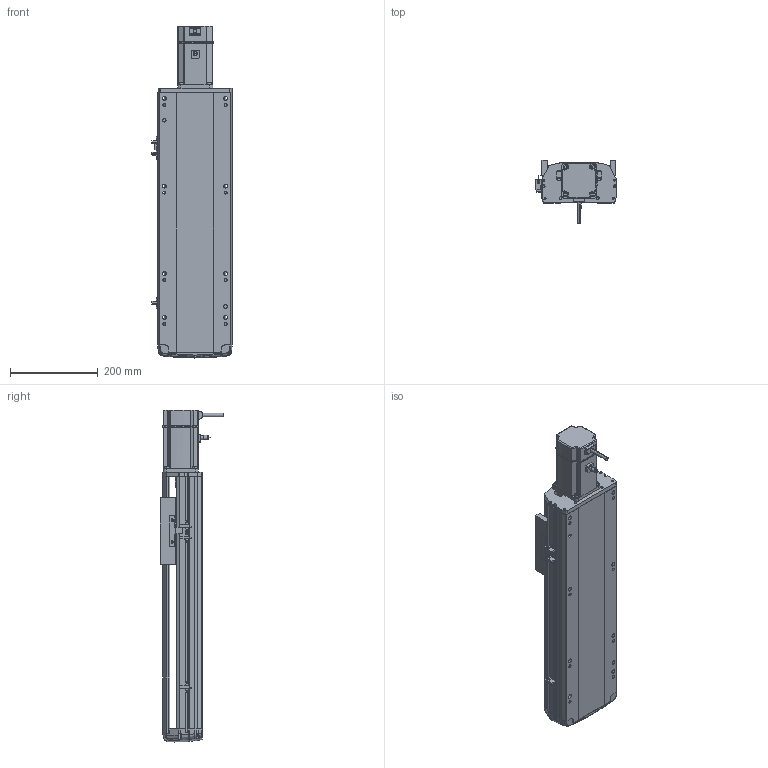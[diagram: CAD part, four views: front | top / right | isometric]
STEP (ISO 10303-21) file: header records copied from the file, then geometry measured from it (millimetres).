
FILE_DESCRIPTION (( 'STEP AP214' ), '1' );
FILE_NAME ('RTH17-XX-350-E-M75-C4.STEP', '2025-10-24T09:36:28', ( '' ), ( '' ), 'SwSTEP 2.0', 'SolidWorks 2018', '' );
FILE_SCHEMA (( 'AUTOMOTIVE_DESIGN' ));
Length unit declared in the file: millimetre
Products named in the file (9): N_RTH17-E-004丝杆螺母连接座^RTH17-XX-XX-E-M75-C4（方程式）; N_RTH17-E-007上盖^RTH17-XX-XX-E-M75-C4（方程式）; N_RTH-L-012 感应片(外置)^RTH17-XX-XX-E-M75-C4（方程式）; RTH17-XX-350-E-M75-C4; N_RTH17-E-008-P75电机板^RTH17-XX-XX-E-M75-C4（方程式）; N_RTH17-E-011底座^RTH17-XX-XX-E-M75-C4（方程式）; N_OMRON EE-SX672 換覜ん^RTH17-XX-XX-E-M75-C4ㄗ源最宒ㄘ; N_RTH17-GY-001P^RTH17-XX-XX-E-M75-C4（方程式）; N_M75^RTH17-XX-XX-E-M75-C4（方程式）
Assembly tree (10 placements, depth 2):
  RTH17-XX-350-E-M75-C4
    N_RTH17-E-011底座^RTH17-XX-XX-E-M75-C4（方程式）
    N_RTH17-E-007上盖^RTH17-XX-XX-E-M75-C4（方程式）
    N_M75^RTH17-XX-XX-E-M75-C4（方程式）
    N_RTH17-E-008-P75电机板^RTH17-XX-XX-E-M75-C4（方程式）
    N_OMRON EE-SX672 換覜ん^RTH17-XX-XX-E-M75-C4ㄗ源最宒ㄘ  x3
    N_RTH-L-012 感应片(外置)^RTH17-XX-XX-E-M75-C4（方程式）
    N_RTH17-E-004丝杆螺母连接座^RTH17-XX-XX-E-M75-C4（方程式）
    N_RTH17-GY-001P^RTH17-XX-XX-E-M75-C4（方程式）
Bounding box: 183.5 x 145.7 x 758.27 mm (x, y, z)
Volume: 5747348.6 mm3; surface area: 774143.4 mm2
Topology: 9 solids, 11 shells, 1748 faces, 4821 edges, 3122 vertices
Faces by surface type: plane 820, cylinder 514, bspline 377, cone 28, torus 9
Entity records: 50998 total; most frequent: CARTESIAN_POINT 20155, ORIENTED_EDGE 6666, DIRECTION 5597, EDGE_CURVE 3337, VERTEX_POINT 2158, AXIS2_PLACEMENT_3D 1895, VECTOR 1807, LINE 1807
